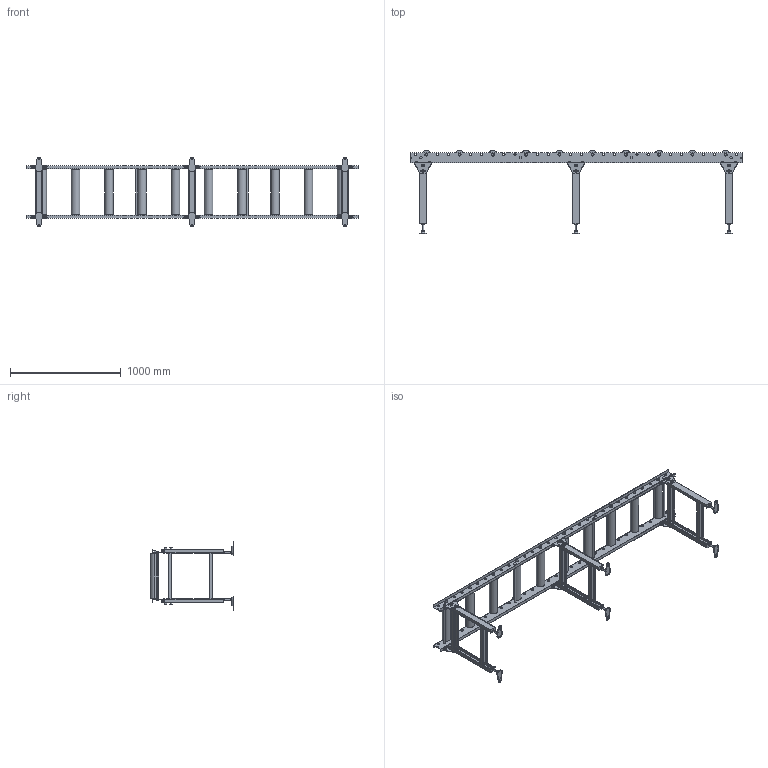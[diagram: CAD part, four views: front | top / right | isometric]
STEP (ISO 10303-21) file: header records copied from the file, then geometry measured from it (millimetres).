
FILE_DESCRIPTION (( 'STEP AP214' ), '1' );
FILE_NAME ('MR-7642-400-300-3000.STEP', '2024-03-19T08:51:56', ( '' ), ( '' ), 'SwSTEP 2.0', 'SolidWorks 2017', '' );
FILE_SCHEMA (( 'AUTOMOTIVE_DESIGN' ));
Length unit declared in the file: millimetre
Products named in the file (1): MR-7642-400-300-3000
Bounding box: 2994 x 749.95 x 629 mm (x, y, z)
Volume: 23556970.6 mm3; surface area: 4753845.9 mm2
Topology: 16 solids, 16 shells, 1908 faces, 4776 edges, 3056 vertices
Faces by surface type: plane 1314, cylinder 570, cone 12, bspline 12
Entity records: 58879 total; most frequent: CARTESIAN_POINT 11415, DIRECTION 10028, ORIENTED_EDGE 9552, EDGE_CURVE 4776, AXIS2_PLACEMENT_3D 3409, VECTOR 3210, LINE 3210, VERTEX_POINT 3056
